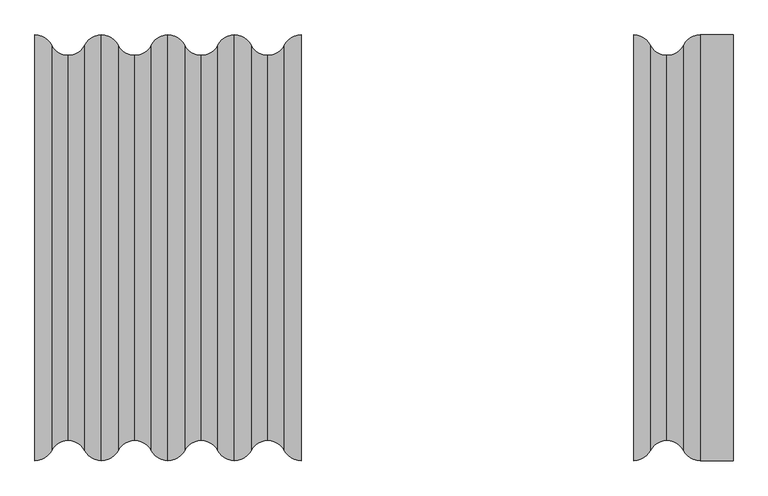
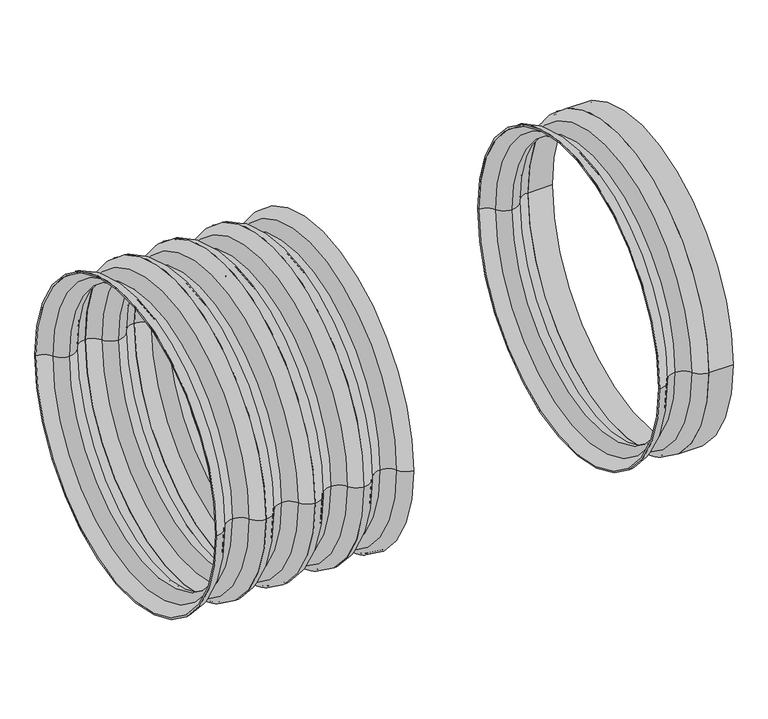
"""IFC4 building model written with IfcOpenShell, lengths in millimetres: pipe fitting geometry, Z_PIF_UN_Q-Bic_Plus_Shaft_Pipe_Wavin_(nested) : PP, RAL8012, ø600mm."""

from ifc_helpers import new_model, si_unit, point, frame, origin, place, context, project, spatial, polyline, circle_curve, ellipse_curve, trimmed, source, transform, mapped, element, save
from ifc_brep_helpers import plane_surface, cylinder_surface, revolved_surface, advanced_brep


def pipe_fitting_82165052(model_context):
    return source(origin(), model_context, "Body", "AdvancedBrep", [
        advanced_brep(
        [(315.0, -336.4, 0.0), (315.0, 336.4, 0.0), (341.25, 320.3, 0.0), (341.25, -320.3, 0.0), (315.0, -332.7, 0.0), (315.0, 332.7, 0.0), (341.25, -316.6, 0.0), (341.25, 316.6, 0.0), (367.5, -300.5, 0.0), (367.5, 300.5, 0.0), (393.75, -316.6, 0.0), (393.75, 316.6, 0.0), (420.0, -332.7, 0.0), (420.0, 332.7, 0.0), (420.0, -336.4, 0.0), (420.0, 336.4, 0.0), (393.75, -320.3, 0.0), (393.75, 320.3, 0.0), (367.5, -304.2, 0.0), (367.5, 304.2, 0.0)],
        [
            (0, 1, circle_curve(frame((315.0, 0.0, 0.0), z_axis=(1.0, 0.0, 0.0), x_axis=(0.0, 1.0, 0.0)), 336.4)),
            (1, 2, circle_curve(frame((315.0, 306.9505435, 0.0), z_axis=(0.0, 0.0, -1.0), x_axis=(1.0, 0.0, 0.0)), 29.4494565)),
            (2, 3, circle_curve(frame((341.25, 0.0, 0.0), z_axis=(-1.0, 0.0, 0.0), x_axis=(0.0, 1.0, 0.0)), 320.3)),
            (3, 0, circle_curve(frame((315.0, -306.9505435, 0.0), z_axis=(0.0, 0.0, -1.0), x_axis=(1.0, 0.0, 0.0)), 29.4494565)),
            (1, 0, circle_curve(frame((315.0, 0.0, 0.0), z_axis=(1.0, 0.0, 0.0), x_axis=(0.0, 1.0, 0.0)), 336.4)),
            (3, 2, circle_curve(frame((341.25, 0.0, 0.0), z_axis=(-1.0, 0.0, 0.0), x_axis=(0.0, 1.0, 0.0)), 320.3)),
            (4, 5, circle_curve(frame((315.0, 0.0, 0.0), z_axis=(1.0, 0.0, 0.0), x_axis=(0.0, 1.0, 0.0)), 332.7)),
            (5, 1),
            (0, 4),
            (5, 4, circle_curve(frame((315.0, 0.0, 0.0), z_axis=(1.0, 0.0, 0.0), x_axis=(0.0, 1.0, 0.0)), 332.7)),
            (6, 7, circle_curve(frame((341.25, 0.0, 0.0), z_axis=(1.0, 0.0, 0.0), x_axis=(0.0, 1.0, 0.0)), 316.6)),
            (7, 5, circle_curve(frame((315.0, 303.2505435, 0.0), z_axis=(0.0, 0.0, 1.0), x_axis=(1.0, 0.0, 0.0)), 29.4494565)),
            (4, 6, circle_curve(frame((315.0, -303.2505435, 0.0), z_axis=(0.0, 0.0, 1.0), x_axis=(1.0, 0.0, 0.0)), 29.4494565)),
            (7, 6, circle_curve(frame((341.25, 0.0, 0.0), z_axis=(1.0, 0.0, 0.0), x_axis=(0.0, 1.0, 0.0)), 316.6)),
            (8, 9, circle_curve(frame((367.5, 0.0, 0.0), z_axis=(1.0, 0.0, 0.0), x_axis=(0.0, 1.0, 0.0)), 300.5)),
            (9, 7, circle_curve(frame((367.5, 329.9494565, 0.0), z_axis=(0.0, 0.0, -1.0), x_axis=(1.0, 0.0, 0.0)), 29.4494565)),
            (6, 8, circle_curve(frame((367.5, -329.9494565, 0.0), z_axis=(0.0, 0.0, -1.0), x_axis=(1.0, 0.0, 0.0)), 29.4494565)),
            (9, 8, circle_curve(frame((367.5, 0.0, 0.0), z_axis=(1.0, 0.0, 0.0), x_axis=(0.0, 1.0, 0.0)), 300.5)),
            (10, 11, circle_curve(frame((393.75, 0.0, 0.0), z_axis=(1.0, 0.0, 0.0), x_axis=(0.0, 1.0, 0.0)), 316.6)),
            (11, 9, circle_curve(frame((367.5, 329.9494565, 0.0), z_axis=(0.0, 0.0, -1.0), x_axis=(1.0, 0.0, 0.0)), 29.4494565)),
            (8, 10, circle_curve(frame((367.5, -329.9494565, 0.0), z_axis=(0.0, 0.0, -1.0), x_axis=(1.0, 0.0, 0.0)), 29.4494565)),
            (11, 10, circle_curve(frame((393.75, 0.0, 0.0), z_axis=(1.0, 0.0, 0.0), x_axis=(0.0, 1.0, 0.0)), 316.6)),
            (12, 13, circle_curve(frame((420.0, 0.0, 0.0), z_axis=(1.0, 0.0, 0.0), x_axis=(0.0, 1.0, 0.0)), 332.7)),
            (13, 11, circle_curve(frame((420.0, 303.2505435, 0.0), z_axis=(0.0, 0.0, 1.0), x_axis=(1.0, 0.0, 0.0)), 29.4494565)),
            (10, 12, circle_curve(frame((420.0, -303.2505435, 0.0), z_axis=(0.0, 0.0, 1.0), x_axis=(1.0, 0.0, 0.0)), 29.4494565)),
            (13, 12, circle_curve(frame((420.0, 0.0, 0.0), z_axis=(1.0, 0.0, 0.0), x_axis=(0.0, 1.0, 0.0)), 332.7)),
            (14, 15, circle_curve(frame((420.0, 0.0, 0.0), z_axis=(1.0, 0.0, 0.0), x_axis=(0.0, 1.0, 0.0)), 336.4)),
            (15, 13),
            (12, 14),
            (15, 14, circle_curve(frame((420.0, 0.0, 0.0), z_axis=(1.0, 0.0, 0.0), x_axis=(0.0, 1.0, 0.0)), 336.4)),
            (16, 17, circle_curve(frame((393.75, 0.0, 0.0), z_axis=(1.0, 0.0, 0.0), x_axis=(0.0, 1.0, 0.0)), 320.3)),
            (17, 15, circle_curve(frame((420.0, 306.9505435, 0.0), z_axis=(0.0, 0.0, -1.0), x_axis=(1.0, 0.0, 0.0)), 29.4494565)),
            (14, 16, circle_curve(frame((420.0, -306.9505435, 0.0), z_axis=(0.0, 0.0, -1.0), x_axis=(1.0, 0.0, 0.0)), 29.4494565)),
            (17, 16, circle_curve(frame((393.75, 0.0, 0.0), z_axis=(1.0, 0.0, 0.0), x_axis=(0.0, 1.0, 0.0)), 320.3)),
            (18, 19, circle_curve(frame((367.5, 0.0, 0.0), z_axis=(1.0, 0.0, 0.0), x_axis=(0.0, 1.0, 0.0)), 304.2)),
            (19, 17, circle_curve(frame((367.5, 333.6494565, 0.0), z_axis=(0.0, 0.0, 1.0), x_axis=(1.0, 0.0, 0.0)), 29.4494565)),
            (16, 18, circle_curve(frame((367.5, -333.6494565, 0.0), z_axis=(0.0, 0.0, 1.0), x_axis=(1.0, 0.0, 0.0)), 29.4494565)),
            (19, 18, circle_curve(frame((367.5, 0.0, 0.0), z_axis=(1.0, 0.0, 0.0), x_axis=(0.0, 1.0, 0.0)), 304.2)),
            (2, 19, circle_curve(frame((367.5, 333.6494565, 0.0), z_axis=(0.0, 0.0, 1.0), x_axis=(1.0, 0.0, 0.0)), 29.4494565)),
            (18, 3, circle_curve(frame((367.5, -333.6494565, 0.0), z_axis=(0.0, 0.0, 1.0), x_axis=(1.0, 0.0, 0.0)), 29.4494565)),
        ],
        [
            revolved_surface(trimmed(ellipse_curve(frame((315.0, 306.9505435, 0.0), z_axis=(0.0, 0.0, 1.0), x_axis=(1.0, 0.0, 0.0)), 29.4494565, 29.4494565), [point((341.25, 320.3, 0.0))], [point((315.0, 336.4, 0.0))], True, "CARTESIAN"), (265.0, 0.0, 0.0), (-1.0, 0.0, 0.0)),
            plane_surface(frame((315.0, 0.0, 0.0), z_axis=(-1.0, 0.0, 0.0), x_axis=(0.0, 1.0, 0.0))),
            revolved_surface(trimmed(ellipse_curve(frame((315.0, 303.2505435, 0.0), z_axis=(0.0, 0.0, -1.0), x_axis=(1.0, 0.0, 0.0)), 29.4494565, 29.4494565), [point((315.0, 332.7, 0.0))], [point((341.25, 316.6, 0.0))], True, "CARTESIAN"), (265.0, 0.0, 0.0), (-1.0, 0.0, 0.0)),
            revolved_surface(trimmed(ellipse_curve(frame((367.5, 329.9494565, 0.0), z_axis=(0.0, 0.0, 1.0), x_axis=(1.0, 0.0, 0.0)), 29.4494565, 29.4494565), [point((341.25, 316.6, 0.0))], [point((367.5, 300.5, 0.0))], True, "CARTESIAN"), (265.0, 0.0, 0.0), (-1.0, 0.0, 0.0)),
            revolved_surface(trimmed(ellipse_curve(frame((367.5, 329.9494565, 0.0), z_axis=(0.0, 0.0, 1.0), x_axis=(1.0, 0.0, 0.0)), 29.4494565, 29.4494565), [point((367.5, 300.5, 0.0))], [point((393.75, 316.6, 0.0))], True, "CARTESIAN"), (265.0, 0.0, 0.0), (-1.0, 0.0, 0.0)),
            revolved_surface(trimmed(ellipse_curve(frame((420.0, 303.2505435, 0.0), z_axis=(0.0, 0.0, -1.0), x_axis=(1.0, 0.0, 0.0)), 29.4494565, 29.4494565), [point((393.75, 316.6, 0.0))], [point((420.0, 332.7, 0.0))], True, "CARTESIAN"), (265.0, 0.0, 0.0), (-1.0, 0.0, 0.0)),
            plane_surface(frame((420.0, 0.0, 0.0), z_axis=(1.0, 0.0, 0.0), x_axis=(0.0, 1.0, 0.0))),
            revolved_surface(trimmed(ellipse_curve(frame((420.0, 306.9505435, 0.0), z_axis=(0.0, 0.0, 1.0), x_axis=(1.0, 0.0, 0.0)), 29.4494565, 29.4494565), [point((420.0, 336.4, 0.0))], [point((393.75, 320.3, 0.0))], True, "CARTESIAN"), (265.0, 0.0, 0.0), (-1.0, 0.0, 0.0)),
            revolved_surface(trimmed(ellipse_curve(frame((367.5, 333.6494565, 0.0), z_axis=(0.0, 0.0, -1.0), x_axis=(1.0, 0.0, 0.0)), 29.4494565, 29.4494565), [point((393.75, 320.3, 0.0))], [point((367.5, 304.2, 0.0))], True, "CARTESIAN"), (265.0, 0.0, 0.0), (-1.0, 0.0, 0.0)),
            revolved_surface(trimmed(ellipse_curve(frame((367.5, 333.6494565, 0.0), z_axis=(0.0, 0.0, -1.0), x_axis=(1.0, 0.0, 0.0)), 29.4494565, 29.4494565), [point((367.5, 304.2, 0.0))], [point((341.25, 320.3, 0.0))], True, "CARTESIAN"), (265.0, 0.0, 0.0), (-1.0, 0.0, 0.0)),
        ],
        [
            (0, [[1, 2, 3, 4]]),
            (0, [[5, -4, 6, -2]]),
            (1, [[7, 8, -1, 9]]),
            (1, [[10, -9, -5, -8]]),
            (2, [[11, 12, -7, 13]]),
            (2, [[14, -13, -10, -12]]),
            (3, [[15, 16, -11, 17]]),
            (3, [[18, -17, -14, -16]]),
            (4, [[19, 20, -15, 21]]),
            (4, [[22, -21, -18, -20]]),
            (5, [[23, 24, -19, 25]]),
            (5, [[26, -25, -22, -24]]),
            (6, [[27, 28, -23, 29]]),
            (6, [[30, -29, -26, -28]]),
            (7, [[31, 32, -27, 33]]),
            (7, [[34, -33, -30, -32]]),
            (8, [[35, 36, -31, 37]]),
            (8, [[38, -37, -34, -36]]),
            (9, [[-3, 39, -35, 40]]),
            (9, [[-6, -40, -38, -39]]),
        ],
    ),
        advanced_brep(
        [(210.0, -336.4, 0.0), (210.0, 336.4, 0.0), (236.25, 320.3, 0.0), (236.25, -320.3, 0.0), (210.0, -332.7, 0.0), (210.0, 332.7, 0.0), (236.25, -316.6, 0.0), (236.25, 316.6, 0.0), (262.5, -300.5, 0.0), (262.5, 300.5, 0.0), (288.75, -316.6, 0.0), (288.75, 316.6, 0.0), (315.0, -332.7, 0.0), (315.0, 332.7, 0.0), (315.0, -336.4, 0.0), (315.0, 336.4, 0.0), (288.75, -320.3, 0.0), (288.75, 320.3, 0.0), (262.5, -304.2, 0.0), (262.5, 304.2, 0.0)],
        [
            (0, 1, circle_curve(frame((210.0, 0.0, 0.0), z_axis=(1.0, 0.0, 0.0), x_axis=(0.0, 1.0, 0.0)), 336.4)),
            (1, 2, circle_curve(frame((210.0, 306.9505435, 0.0), z_axis=(0.0, 0.0, -1.0), x_axis=(1.0, 0.0, 0.0)), 29.4494565)),
            (2, 3, circle_curve(frame((236.25, 0.0, 0.0), z_axis=(-1.0, 0.0, 0.0), x_axis=(0.0, 1.0, 0.0)), 320.3)),
            (3, 0, circle_curve(frame((210.0, -306.9505435, 0.0), z_axis=(0.0, 0.0, -1.0), x_axis=(1.0, 0.0, 0.0)), 29.4494565)),
            (1, 0, circle_curve(frame((210.0, 0.0, 0.0), z_axis=(1.0, 0.0, 0.0), x_axis=(0.0, 1.0, 0.0)), 336.4)),
            (3, 2, circle_curve(frame((236.25, 0.0, 0.0), z_axis=(-1.0, 0.0, 0.0), x_axis=(0.0, 1.0, 0.0)), 320.3)),
            (4, 5, circle_curve(frame((210.0, 0.0, 0.0), z_axis=(1.0, 0.0, 0.0), x_axis=(0.0, 1.0, 0.0)), 332.7)),
            (5, 1),
            (0, 4),
            (5, 4, circle_curve(frame((210.0, 0.0, 0.0), z_axis=(1.0, 0.0, 0.0), x_axis=(0.0, 1.0, 0.0)), 332.7)),
            (6, 7, circle_curve(frame((236.25, 0.0, 0.0), z_axis=(1.0, 0.0, 0.0), x_axis=(0.0, 1.0, 0.0)), 316.6)),
            (7, 5, circle_curve(frame((210.0, 303.2505435, 0.0), z_axis=(0.0, 0.0, 1.0), x_axis=(1.0, 0.0, 0.0)), 29.4494565)),
            (4, 6, circle_curve(frame((210.0, -303.2505435, 0.0), z_axis=(0.0, 0.0, 1.0), x_axis=(1.0, 0.0, 0.0)), 29.4494565)),
            (7, 6, circle_curve(frame((236.25, 0.0, 0.0), z_axis=(1.0, 0.0, 0.0), x_axis=(0.0, 1.0, 0.0)), 316.6)),
            (8, 9, circle_curve(frame((262.5, 0.0, 0.0), z_axis=(1.0, 0.0, 0.0), x_axis=(0.0, 1.0, 0.0)), 300.5)),
            (9, 7, circle_curve(frame((262.5, 329.9494565, 0.0), z_axis=(0.0, 0.0, -1.0), x_axis=(1.0, 0.0, 0.0)), 29.4494565)),
            (6, 8, circle_curve(frame((262.5, -329.9494565, 0.0), z_axis=(0.0, 0.0, -1.0), x_axis=(1.0, 0.0, 0.0)), 29.4494565)),
            (9, 8, circle_curve(frame((262.5, 0.0, 0.0), z_axis=(1.0, 0.0, 0.0), x_axis=(0.0, 1.0, 0.0)), 300.5)),
            (10, 11, circle_curve(frame((288.75, 0.0, 0.0), z_axis=(1.0, 0.0, 0.0), x_axis=(0.0, 1.0, 0.0)), 316.6)),
            (11, 9, circle_curve(frame((262.5, 329.9494565, 0.0), z_axis=(0.0, 0.0, -1.0), x_axis=(1.0, 0.0, 0.0)), 29.4494565)),
            (8, 10, circle_curve(frame((262.5, -329.9494565, 0.0), z_axis=(0.0, 0.0, -1.0), x_axis=(1.0, 0.0, 0.0)), 29.4494565)),
            (11, 10, circle_curve(frame((288.75, 0.0, 0.0), z_axis=(1.0, 0.0, 0.0), x_axis=(0.0, 1.0, 0.0)), 316.6)),
            (12, 13, circle_curve(frame((315.0, 0.0, 0.0), z_axis=(1.0, 0.0, 0.0), x_axis=(0.0, 1.0, 0.0)), 332.7)),
            (13, 11, circle_curve(frame((315.0, 303.2505435, 0.0), z_axis=(0.0, 0.0, 1.0), x_axis=(1.0, 0.0, 0.0)), 29.4494565)),
            (10, 12, circle_curve(frame((315.0, -303.2505435, 0.0), z_axis=(0.0, 0.0, 1.0), x_axis=(1.0, 0.0, 0.0)), 29.4494565)),
            (13, 12, circle_curve(frame((315.0, 0.0, 0.0), z_axis=(1.0, 0.0, 0.0), x_axis=(0.0, 1.0, 0.0)), 332.7)),
            (14, 15, circle_curve(frame((315.0, 0.0, 0.0), z_axis=(1.0, 0.0, 0.0), x_axis=(0.0, 1.0, 0.0)), 336.4)),
            (15, 13),
            (12, 14),
            (15, 14, circle_curve(frame((315.0, 0.0, 0.0), z_axis=(1.0, 0.0, 0.0), x_axis=(0.0, 1.0, 0.0)), 336.4)),
            (16, 17, circle_curve(frame((288.75, 0.0, 0.0), z_axis=(1.0, 0.0, 0.0), x_axis=(0.0, 1.0, 0.0)), 320.3)),
            (17, 15, circle_curve(frame((315.0, 306.9505435, 0.0), z_axis=(0.0, 0.0, -1.0), x_axis=(1.0, 0.0, 0.0)), 29.4494565)),
            (14, 16, circle_curve(frame((315.0, -306.9505435, 0.0), z_axis=(0.0, 0.0, -1.0), x_axis=(1.0, 0.0, 0.0)), 29.4494565)),
            (17, 16, circle_curve(frame((288.75, 0.0, 0.0), z_axis=(1.0, 0.0, 0.0), x_axis=(0.0, 1.0, 0.0)), 320.3)),
            (18, 19, circle_curve(frame((262.5, 0.0, 0.0), z_axis=(1.0, 0.0, 0.0), x_axis=(0.0, 1.0, 0.0)), 304.2)),
            (19, 17, circle_curve(frame((262.5, 333.6494565, 0.0), z_axis=(0.0, 0.0, 1.0), x_axis=(1.0, 0.0, 0.0)), 29.4494565)),
            (16, 18, circle_curve(frame((262.5, -333.6494565, 0.0), z_axis=(0.0, 0.0, 1.0), x_axis=(1.0, 0.0, 0.0)), 29.4494565)),
            (19, 18, circle_curve(frame((262.5, 0.0, 0.0), z_axis=(1.0, 0.0, 0.0), x_axis=(0.0, 1.0, 0.0)), 304.2)),
            (2, 19, circle_curve(frame((262.5, 333.6494565, 0.0), z_axis=(0.0, 0.0, 1.0), x_axis=(1.0, 0.0, 0.0)), 29.4494565)),
            (18, 3, circle_curve(frame((262.5, -333.6494565, 0.0), z_axis=(0.0, 0.0, 1.0), x_axis=(1.0, 0.0, 0.0)), 29.4494565)),
        ],
        [
            revolved_surface(trimmed(ellipse_curve(frame((210.0, 306.9505435, 0.0), z_axis=(0.0, 0.0, 1.0), x_axis=(1.0, 0.0, 0.0)), 29.4494565, 29.4494565), [point((236.25, 320.3, 0.0))], [point((210.0, 336.4, 0.0))], True, "CARTESIAN"), (160.0, 0.0, 0.0), (-1.0, 0.0, 0.0)),
            plane_surface(frame((210.0, 0.0, 0.0), z_axis=(-1.0, 0.0, 0.0), x_axis=(0.0, 1.0, 0.0))),
            revolved_surface(trimmed(ellipse_curve(frame((210.0, 303.2505435, 0.0), z_axis=(0.0, 0.0, -1.0), x_axis=(1.0, 0.0, 0.0)), 29.4494565, 29.4494565), [point((210.0, 332.7, 0.0))], [point((236.25, 316.6, 0.0))], True, "CARTESIAN"), (160.0, 0.0, 0.0), (-1.0, 0.0, 0.0)),
            revolved_surface(trimmed(ellipse_curve(frame((262.5, 329.9494565, 0.0), z_axis=(0.0, 0.0, 1.0), x_axis=(1.0, 0.0, 0.0)), 29.4494565, 29.4494565), [point((236.25, 316.6, 0.0))], [point((262.5, 300.5, 0.0))], True, "CARTESIAN"), (160.0, 0.0, 0.0), (-1.0, 0.0, 0.0)),
            revolved_surface(trimmed(ellipse_curve(frame((262.5, 329.9494565, 0.0), z_axis=(0.0, 0.0, 1.0), x_axis=(1.0, 0.0, 0.0)), 29.4494565, 29.4494565), [point((262.5, 300.5, 0.0))], [point((288.75, 316.6, 0.0))], True, "CARTESIAN"), (160.0, 0.0, 0.0), (-1.0, 0.0, 0.0)),
            revolved_surface(trimmed(ellipse_curve(frame((315.0, 303.2505435, 0.0), z_axis=(0.0, 0.0, -1.0), x_axis=(1.0, 0.0, 0.0)), 29.4494565, 29.4494565), [point((288.75, 316.6, 0.0))], [point((315.0, 332.7, 0.0))], True, "CARTESIAN"), (160.0, 0.0, 0.0), (-1.0, 0.0, 0.0)),
            plane_surface(frame((315.0, 0.0, 0.0), z_axis=(1.0, 0.0, 0.0), x_axis=(0.0, 1.0, 0.0))),
            revolved_surface(trimmed(ellipse_curve(frame((315.0, 306.9505435, 0.0), z_axis=(0.0, 0.0, 1.0), x_axis=(1.0, 0.0, 0.0)), 29.4494565, 29.4494565), [point((315.0, 336.4, 0.0))], [point((288.75, 320.3, 0.0))], True, "CARTESIAN"), (160.0, 0.0, 0.0), (-1.0, 0.0, 0.0)),
            revolved_surface(trimmed(ellipse_curve(frame((262.5, 333.6494565, 0.0), z_axis=(0.0, 0.0, -1.0), x_axis=(1.0, 0.0, 0.0)), 29.4494565, 29.4494565), [point((288.75, 320.3, 0.0))], [point((262.5, 304.2, 0.0))], True, "CARTESIAN"), (160.0, 0.0, 0.0), (-1.0, 0.0, 0.0)),
            revolved_surface(trimmed(ellipse_curve(frame((262.5, 333.6494565, 0.0), z_axis=(0.0, 0.0, -1.0), x_axis=(1.0, 0.0, 0.0)), 29.4494565, 29.4494565), [point((262.5, 304.2, 0.0))], [point((236.25, 320.3, 0.0))], True, "CARTESIAN"), (160.0, 0.0, 0.0), (-1.0, 0.0, 0.0)),
        ],
        [
            (0, [[1, 2, 3, 4]]),
            (0, [[5, -4, 6, -2]]),
            (1, [[7, 8, -1, 9]]),
            (1, [[10, -9, -5, -8]]),
            (2, [[11, 12, -7, 13]]),
            (2, [[14, -13, -10, -12]]),
            (3, [[15, 16, -11, 17]]),
            (3, [[18, -17, -14, -16]]),
            (4, [[19, 20, -15, 21]]),
            (4, [[22, -21, -18, -20]]),
            (5, [[23, 24, -19, 25]]),
            (5, [[26, -25, -22, -24]]),
            (6, [[27, 28, -23, 29]]),
            (6, [[30, -29, -26, -28]]),
            (7, [[31, 32, -27, 33]]),
            (7, [[34, -33, -30, -32]]),
            (8, [[35, 36, -31, 37]]),
            (8, [[38, -37, -34, -36]]),
            (9, [[-3, 39, -35, 40]]),
            (9, [[-6, -40, -38, -39]]),
        ],
    ),
        advanced_brep(
        [(105.0, -336.4, 0.0), (105.0, 336.4, 0.0), (131.25, 320.3, 0.0), (131.25, -320.3, 0.0), (105.0, -332.7, 0.0), (105.0, 332.7, 0.0), (131.25, -316.6, 0.0), (131.25, 316.6, 0.0), (157.5, -300.5, 0.0), (157.5, 300.5, 0.0), (183.75, -316.6, 0.0), (183.75, 316.6, 0.0), (210.0, -332.7, 0.0), (210.0, 332.7, 0.0), (210.0, -336.4, 0.0), (210.0, 336.4, 0.0), (183.75, -320.3, 0.0), (183.75, 320.3, 0.0), (157.5, -304.2, 0.0), (157.5, 304.2, 0.0)],
        [
            (0, 1, circle_curve(frame((105.0, 0.0, 0.0), z_axis=(1.0, 0.0, 0.0), x_axis=(0.0, 1.0, 0.0)), 336.4)),
            (1, 2, circle_curve(frame((105.0, 306.9505435, 0.0), z_axis=(0.0, 0.0, -1.0), x_axis=(1.0, 0.0, 0.0)), 29.4494565)),
            (2, 3, circle_curve(frame((131.25, 0.0, 0.0), z_axis=(-1.0, 0.0, 0.0), x_axis=(0.0, 1.0, 0.0)), 320.3)),
            (3, 0, circle_curve(frame((105.0, -306.9505435, 0.0), z_axis=(0.0, 0.0, -1.0), x_axis=(1.0, 0.0, 0.0)), 29.4494565)),
            (1, 0, circle_curve(frame((105.0, 0.0, 0.0), z_axis=(1.0, 0.0, 0.0), x_axis=(0.0, 1.0, 0.0)), 336.4)),
            (3, 2, circle_curve(frame((131.25, 0.0, 0.0), z_axis=(-1.0, 0.0, 0.0), x_axis=(0.0, 1.0, 0.0)), 320.3)),
            (4, 5, circle_curve(frame((105.0, 0.0, 0.0), z_axis=(1.0, 0.0, 0.0), x_axis=(0.0, 1.0, 0.0)), 332.7)),
            (5, 1),
            (0, 4),
            (5, 4, circle_curve(frame((105.0, 0.0, 0.0), z_axis=(1.0, 0.0, 0.0), x_axis=(0.0, 1.0, 0.0)), 332.7)),
            (6, 7, circle_curve(frame((131.25, 0.0, 0.0), z_axis=(1.0, 0.0, 0.0), x_axis=(0.0, 1.0, 0.0)), 316.6)),
            (7, 5, circle_curve(frame((105.0, 303.2505435, 0.0), z_axis=(0.0, 0.0, 1.0), x_axis=(1.0, 0.0, 0.0)), 29.4494565)),
            (4, 6, circle_curve(frame((105.0, -303.2505435, 0.0), z_axis=(0.0, 0.0, 1.0), x_axis=(1.0, 0.0, 0.0)), 29.4494565)),
            (7, 6, circle_curve(frame((131.25, 0.0, 0.0), z_axis=(1.0, 0.0, 0.0), x_axis=(0.0, 1.0, 0.0)), 316.6)),
            (8, 9, circle_curve(frame((157.5, 0.0, 0.0), z_axis=(1.0, 0.0, 0.0), x_axis=(0.0, 1.0, 0.0)), 300.5)),
            (9, 7, circle_curve(frame((157.5, 329.9494565, 0.0), z_axis=(0.0, 0.0, -1.0), x_axis=(1.0, 0.0, 0.0)), 29.4494565)),
            (6, 8, circle_curve(frame((157.5, -329.9494565, 0.0), z_axis=(0.0, 0.0, -1.0), x_axis=(1.0, 0.0, 0.0)), 29.4494565)),
            (9, 8, circle_curve(frame((157.5, 0.0, 0.0), z_axis=(1.0, 0.0, 0.0), x_axis=(0.0, 1.0, 0.0)), 300.5)),
            (10, 11, circle_curve(frame((183.75, 0.0, 0.0), z_axis=(1.0, 0.0, 0.0), x_axis=(0.0, 1.0, 0.0)), 316.6)),
            (11, 9, circle_curve(frame((157.5, 329.9494565, 0.0), z_axis=(0.0, 0.0, -1.0), x_axis=(1.0, 0.0, 0.0)), 29.4494565)),
            (8, 10, circle_curve(frame((157.5, -329.9494565, 0.0), z_axis=(0.0, 0.0, -1.0), x_axis=(1.0, 0.0, 0.0)), 29.4494565)),
            (11, 10, circle_curve(frame((183.75, 0.0, 0.0), z_axis=(1.0, 0.0, 0.0), x_axis=(0.0, 1.0, 0.0)), 316.6)),
            (12, 13, circle_curve(frame((210.0, 0.0, 0.0), z_axis=(1.0, 0.0, 0.0), x_axis=(0.0, 1.0, 0.0)), 332.7)),
            (13, 11, circle_curve(frame((210.0, 303.2505435, 0.0), z_axis=(0.0, 0.0, 1.0), x_axis=(1.0, 0.0, 0.0)), 29.4494565)),
            (10, 12, circle_curve(frame((210.0, -303.2505435, 0.0), z_axis=(0.0, 0.0, 1.0), x_axis=(1.0, 0.0, 0.0)), 29.4494565)),
            (13, 12, circle_curve(frame((210.0, 0.0, 0.0), z_axis=(1.0, 0.0, 0.0), x_axis=(0.0, 1.0, 0.0)), 332.7)),
            (14, 15, circle_curve(frame((210.0, 0.0, 0.0), z_axis=(1.0, 0.0, 0.0), x_axis=(0.0, 1.0, 0.0)), 336.4)),
            (15, 13),
            (12, 14),
            (15, 14, circle_curve(frame((210.0, 0.0, 0.0), z_axis=(1.0, 0.0, 0.0), x_axis=(0.0, 1.0, 0.0)), 336.4)),
            (16, 17, circle_curve(frame((183.75, 0.0, 0.0), z_axis=(1.0, 0.0, 0.0), x_axis=(0.0, 1.0, 0.0)), 320.3)),
            (17, 15, circle_curve(frame((210.0, 306.9505435, 0.0), z_axis=(0.0, 0.0, -1.0), x_axis=(1.0, 0.0, 0.0)), 29.4494565)),
            (14, 16, circle_curve(frame((210.0, -306.9505435, 0.0), z_axis=(0.0, 0.0, -1.0), x_axis=(1.0, 0.0, 0.0)), 29.4494565)),
            (17, 16, circle_curve(frame((183.75, 0.0, 0.0), z_axis=(1.0, 0.0, 0.0), x_axis=(0.0, 1.0, 0.0)), 320.3)),
            (18, 19, circle_curve(frame((157.5, 0.0, 0.0), z_axis=(1.0, 0.0, 0.0), x_axis=(0.0, 1.0, 0.0)), 304.2)),
            (19, 17, circle_curve(frame((157.5, 333.6494565, 0.0), z_axis=(0.0, 0.0, 1.0), x_axis=(1.0, 0.0, 0.0)), 29.4494565)),
            (16, 18, circle_curve(frame((157.5, -333.6494565, 0.0), z_axis=(0.0, 0.0, 1.0), x_axis=(1.0, 0.0, 0.0)), 29.4494565)),
            (19, 18, circle_curve(frame((157.5, 0.0, 0.0), z_axis=(1.0, 0.0, 0.0), x_axis=(0.0, 1.0, 0.0)), 304.2)),
            (2, 19, circle_curve(frame((157.5, 333.6494565, 0.0), z_axis=(0.0, 0.0, 1.0), x_axis=(1.0, 0.0, 0.0)), 29.4494565)),
            (18, 3, circle_curve(frame((157.5, -333.6494565, 0.0), z_axis=(0.0, 0.0, 1.0), x_axis=(1.0, 0.0, 0.0)), 29.4494565)),
        ],
        [
            revolved_surface(trimmed(ellipse_curve(frame((105.0, 306.9505435, 0.0), z_axis=(0.0, 0.0, 1.0), x_axis=(1.0, 0.0, 0.0)), 29.4494565, 29.4494565), [point((131.25, 320.3, 0.0))], [point((105.0, 336.4, 0.0))], True, "CARTESIAN"), (55.0, 0.0, 0.0), (-1.0, 0.0, 0.0)),
            plane_surface(frame((105.0, 0.0, 0.0), z_axis=(-1.0, 0.0, 0.0), x_axis=(0.0, 1.0, 0.0))),
            revolved_surface(trimmed(ellipse_curve(frame((105.0, 303.2505435, 0.0), z_axis=(0.0, 0.0, -1.0), x_axis=(1.0, 0.0, 0.0)), 29.4494565, 29.4494565), [point((105.0, 332.7, 0.0))], [point((131.25, 316.6, 0.0))], True, "CARTESIAN"), (55.0, 0.0, 0.0), (-1.0, 0.0, 0.0)),
            revolved_surface(trimmed(ellipse_curve(frame((157.5, 329.9494565, 0.0), z_axis=(0.0, 0.0, 1.0), x_axis=(1.0, 0.0, 0.0)), 29.4494565, 29.4494565), [point((131.25, 316.6, 0.0))], [point((157.5, 300.5, 0.0))], True, "CARTESIAN"), (55.0, 0.0, 0.0), (-1.0, 0.0, 0.0)),
            revolved_surface(trimmed(ellipse_curve(frame((157.5, 329.9494565, 0.0), z_axis=(0.0, 0.0, 1.0), x_axis=(1.0, 0.0, 0.0)), 29.4494565, 29.4494565), [point((157.5, 300.5, 0.0))], [point((183.75, 316.6, 0.0))], True, "CARTESIAN"), (55.0, 0.0, 0.0), (-1.0, 0.0, 0.0)),
            revolved_surface(trimmed(ellipse_curve(frame((210.0, 303.2505435, 0.0), z_axis=(0.0, 0.0, -1.0), x_axis=(1.0, 0.0, 0.0)), 29.4494565, 29.4494565), [point((183.75, 316.6, 0.0))], [point((210.0, 332.7, 0.0))], True, "CARTESIAN"), (55.0, 0.0, 0.0), (-1.0, 0.0, 0.0)),
            plane_surface(frame((210.0, 0.0, 0.0), z_axis=(1.0, 0.0, 0.0), x_axis=(0.0, 1.0, 0.0))),
            revolved_surface(trimmed(ellipse_curve(frame((210.0, 306.9505435, 0.0), z_axis=(0.0, 0.0, 1.0), x_axis=(1.0, 0.0, 0.0)), 29.4494565, 29.4494565), [point((210.0, 336.4, 0.0))], [point((183.75, 320.3, 0.0))], True, "CARTESIAN"), (55.0, 0.0, 0.0), (-1.0, 0.0, 0.0)),
            revolved_surface(trimmed(ellipse_curve(frame((157.5, 333.6494565, 0.0), z_axis=(0.0, 0.0, -1.0), x_axis=(1.0, 0.0, 0.0)), 29.4494565, 29.4494565), [point((183.75, 320.3, 0.0))], [point((157.5, 304.2, 0.0))], True, "CARTESIAN"), (55.0, 0.0, 0.0), (-1.0, 0.0, 0.0)),
            revolved_surface(trimmed(ellipse_curve(frame((157.5, 333.6494565, 0.0), z_axis=(0.0, 0.0, -1.0), x_axis=(1.0, 0.0, 0.0)), 29.4494565, 29.4494565), [point((157.5, 304.2, 0.0))], [point((131.25, 320.3, 0.0))], True, "CARTESIAN"), (55.0, 0.0, 0.0), (-1.0, 0.0, 0.0)),
        ],
        [
            (0, [[1, 2, 3, 4]]),
            (0, [[5, -4, 6, -2]]),
            (1, [[7, 8, -1, 9]]),
            (1, [[10, -9, -5, -8]]),
            (2, [[11, 12, -7, 13]]),
            (2, [[14, -13, -10, -12]]),
            (3, [[15, 16, -11, 17]]),
            (3, [[18, -17, -14, -16]]),
            (4, [[19, 20, -15, 21]]),
            (4, [[22, -21, -18, -20]]),
            (5, [[23, 24, -19, 25]]),
            (5, [[26, -25, -22, -24]]),
            (6, [[27, 28, -23, 29]]),
            (6, [[30, -29, -26, -28]]),
            (7, [[31, 32, -27, 33]]),
            (7, [[34, -33, -30, -32]]),
            (8, [[35, 36, -31, 37]]),
            (8, [[38, -37, -34, -36]]),
            (9, [[-3, 39, -35, 40]]),
            (9, [[-6, -40, -38, -39]]),
        ],
    ),
        advanced_brep(
        [(945.0, -336.4, 0.0), (945.0, 336.4, 0.0), (971.25, 320.3, 0.0), (971.25, -320.3, 0.0), (945.0, -332.7, 0.0), (945.0, 332.7, 0.0), (971.25, -316.6, 0.0), (971.25, 316.6, 0.0), (997.5, -300.5, 0.0), (997.5, 300.5, 0.0), (1023.75, -316.6, 0.0), (1023.75, 316.6, 0.0), (1050.0, -332.7, 0.0), (1050.0, 332.7, 0.0), (1050.0, -336.4, 0.0), (1050.0, 336.4, 0.0), (1023.75, -320.3, 0.0), (1023.75, 320.3, 0.0), (997.5, -304.2, 0.0), (997.5, 304.2, 0.0)],
        [
            (0, 1, circle_curve(frame((945.0, 0.0, 0.0), z_axis=(1.0, 0.0, 0.0), x_axis=(0.0, 1.0, 0.0)), 336.4)),
            (1, 2, circle_curve(frame((945.0, 306.9505435, 0.0), z_axis=(0.0, 0.0, -1.0), x_axis=(1.0, 0.0, 0.0)), 29.4494565)),
            (2, 3, circle_curve(frame((971.25, 0.0, 0.0), z_axis=(-1.0, 0.0, 0.0), x_axis=(0.0, 1.0, 0.0)), 320.3)),
            (3, 0, circle_curve(frame((945.0, -306.9505435, 0.0), z_axis=(0.0, 0.0, -1.0), x_axis=(1.0, 0.0, 0.0)), 29.4494565)),
            (1, 0, circle_curve(frame((945.0, 0.0, 0.0), z_axis=(1.0, 0.0, 0.0), x_axis=(0.0, 1.0, 0.0)), 336.4)),
            (3, 2, circle_curve(frame((971.25, 0.0, 0.0), z_axis=(-1.0, 0.0, 0.0), x_axis=(0.0, 1.0, 0.0)), 320.3)),
            (4, 5, circle_curve(frame((945.0, 0.0, 0.0), z_axis=(1.0, 0.0, 0.0), x_axis=(0.0, 1.0, 0.0)), 332.7)),
            (5, 1),
            (0, 4),
            (5, 4, circle_curve(frame((945.0, 0.0, 0.0), z_axis=(1.0, 0.0, 0.0), x_axis=(0.0, 1.0, 0.0)), 332.7)),
            (6, 7, circle_curve(frame((971.25, 0.0, 0.0), z_axis=(1.0, 0.0, 0.0), x_axis=(0.0, 1.0, 0.0)), 316.6)),
            (7, 5, circle_curve(frame((945.0, 303.2505435, 0.0), z_axis=(0.0, 0.0, 1.0), x_axis=(1.0, 0.0, 0.0)), 29.4494565)),
            (4, 6, circle_curve(frame((945.0, -303.2505435, 0.0), z_axis=(0.0, 0.0, 1.0), x_axis=(1.0, 0.0, 0.0)), 29.4494565)),
            (7, 6, circle_curve(frame((971.25, 0.0, 0.0), z_axis=(1.0, 0.0, 0.0), x_axis=(0.0, 1.0, 0.0)), 316.6)),
            (8, 9, circle_curve(frame((997.5, 0.0, 0.0), z_axis=(1.0, 0.0, 0.0), x_axis=(0.0, 1.0, 0.0)), 300.5)),
            (9, 7, circle_curve(frame((997.5, 329.9494565, 0.0), z_axis=(0.0, 0.0, -1.0), x_axis=(1.0, 0.0, 0.0)), 29.4494565)),
            (6, 8, circle_curve(frame((997.5, -329.9494565, 0.0), z_axis=(0.0, 0.0, -1.0), x_axis=(1.0, 0.0, 0.0)), 29.4494565)),
            (9, 8, circle_curve(frame((997.5, 0.0, 0.0), z_axis=(1.0, 0.0, 0.0), x_axis=(0.0, 1.0, 0.0)), 300.5)),
            (10, 11, circle_curve(frame((1023.75, 0.0, 0.0), z_axis=(1.0, 0.0, 0.0), x_axis=(0.0, 1.0, 0.0)), 316.6)),
            (11, 9, circle_curve(frame((997.5, 329.9494565, 0.0), z_axis=(0.0, 0.0, -1.0), x_axis=(1.0, 0.0, 0.0)), 29.4494565)),
            (8, 10, circle_curve(frame((997.5, -329.9494565, 0.0), z_axis=(0.0, 0.0, -1.0), x_axis=(1.0, 0.0, 0.0)), 29.4494565)),
            (11, 10, circle_curve(frame((1023.75, 0.0, 0.0), z_axis=(1.0, 0.0, 0.0), x_axis=(0.0, 1.0, 0.0)), 316.6)),
            (12, 13, circle_curve(frame((1050.0, 0.0, 0.0), z_axis=(1.0, 0.0, 0.0), x_axis=(0.0, 1.0, 0.0)), 332.7)),
            (13, 11, circle_curve(frame((1050.0, 303.2505435, 0.0), z_axis=(0.0, 0.0, 1.0), x_axis=(1.0, 0.0, 0.0)), 29.4494565)),
            (10, 12, circle_curve(frame((1050.0, -303.2505435, 0.0), z_axis=(0.0, 0.0, 1.0), x_axis=(1.0, 0.0, 0.0)), 29.4494565)),
            (13, 12, circle_curve(frame((1050.0, 0.0, 0.0), z_axis=(1.0, 0.0, 0.0), x_axis=(0.0, 1.0, 0.0)), 332.7)),
            (14, 15, circle_curve(frame((1050.0, 0.0, 0.0), z_axis=(1.0, 0.0, 0.0), x_axis=(0.0, 1.0, 0.0)), 336.4)),
            (15, 13),
            (12, 14),
            (15, 14, circle_curve(frame((1050.0, 0.0, 0.0), z_axis=(1.0, 0.0, 0.0), x_axis=(0.0, 1.0, 0.0)), 336.4)),
            (16, 17, circle_curve(frame((1023.75, 0.0, 0.0), z_axis=(1.0, 0.0, 0.0), x_axis=(0.0, 1.0, 0.0)), 320.3)),
            (17, 15, circle_curve(frame((1050.0, 306.9505435, 0.0), z_axis=(0.0, 0.0, -1.0), x_axis=(1.0, 0.0, 0.0)), 29.4494565)),
            (14, 16, circle_curve(frame((1050.0, -306.9505435, 0.0), z_axis=(0.0, 0.0, -1.0), x_axis=(1.0, 0.0, 0.0)), 29.4494565)),
            (17, 16, circle_curve(frame((1023.75, 0.0, 0.0), z_axis=(1.0, 0.0, 0.0), x_axis=(0.0, 1.0, 0.0)), 320.3)),
            (18, 19, circle_curve(frame((997.5, 0.0, 0.0), z_axis=(1.0, 0.0, 0.0), x_axis=(0.0, 1.0, 0.0)), 304.2)),
            (19, 17, circle_curve(frame((997.5, 333.6494565, 0.0), z_axis=(0.0, 0.0, 1.0), x_axis=(1.0, 0.0, 0.0)), 29.4494565)),
            (16, 18, circle_curve(frame((997.5, -333.6494565, 0.0), z_axis=(0.0, 0.0, 1.0), x_axis=(1.0, 0.0, 0.0)), 29.4494565)),
            (19, 18, circle_curve(frame((997.5, 0.0, 0.0), z_axis=(1.0, 0.0, 0.0), x_axis=(0.0, 1.0, 0.0)), 304.2)),
            (2, 19, circle_curve(frame((997.5, 333.6494565, 0.0), z_axis=(0.0, 0.0, 1.0), x_axis=(1.0, 0.0, 0.0)), 29.4494565)),
            (18, 3, circle_curve(frame((997.5, -333.6494565, 0.0), z_axis=(0.0, 0.0, 1.0), x_axis=(1.0, 0.0, 0.0)), 29.4494565)),
        ],
        [
            revolved_surface(trimmed(ellipse_curve(frame((945.0, 306.9505435, 0.0), z_axis=(0.0, 0.0, 1.0), x_axis=(1.0, 0.0, 0.0)), 29.4494565, 29.4494565), [point((971.25, 320.3, 0.0))], [point((945.0, 336.4, 0.0))], True, "CARTESIAN"), (895.0, 0.0, 0.0), (-1.0, 0.0, 0.0)),
            plane_surface(frame((945.0, 0.0, 0.0), z_axis=(-1.0, 0.0, 0.0), x_axis=(0.0, 1.0, 0.0))),
            revolved_surface(trimmed(ellipse_curve(frame((945.0, 303.2505435, 0.0), z_axis=(0.0, 0.0, -1.0), x_axis=(1.0, 0.0, 0.0)), 29.4494565, 29.4494565), [point((945.0, 332.7, 0.0))], [point((971.25, 316.6, 0.0))], True, "CARTESIAN"), (895.0, 0.0, 0.0), (-1.0, 0.0, 0.0)),
            revolved_surface(trimmed(ellipse_curve(frame((997.5, 329.9494565, 0.0), z_axis=(0.0, 0.0, 1.0), x_axis=(1.0, 0.0, 0.0)), 29.4494565, 29.4494565), [point((971.25, 316.6, 0.0))], [point((997.5, 300.5, 0.0))], True, "CARTESIAN"), (895.0, 0.0, 0.0), (-1.0, 0.0, 0.0)),
            revolved_surface(trimmed(ellipse_curve(frame((997.5, 329.9494565, 0.0), z_axis=(0.0, 0.0, 1.0), x_axis=(1.0, 0.0, 0.0)), 29.4494565, 29.4494565), [point((997.5, 300.5, 0.0))], [point((1023.75, 316.6, 0.0))], True, "CARTESIAN"), (895.0, 0.0, 0.0), (-1.0, 0.0, 0.0)),
            revolved_surface(trimmed(ellipse_curve(frame((1050.0, 303.2505435, 0.0), z_axis=(0.0, 0.0, -1.0), x_axis=(1.0, 0.0, 0.0)), 29.4494565, 29.4494565), [point((1023.75, 316.6, 0.0))], [point((1050.0, 332.7, 0.0))], True, "CARTESIAN"), (895.0, 0.0, 0.0), (-1.0, 0.0, 0.0)),
            plane_surface(frame((1050.0, 0.0, 0.0), z_axis=(1.0, 0.0, 0.0), x_axis=(0.0, 1.0, 0.0))),
            revolved_surface(trimmed(ellipse_curve(frame((1050.0, 306.9505435, 0.0), z_axis=(0.0, 0.0, 1.0), x_axis=(1.0, 0.0, 0.0)), 29.4494565, 29.4494565), [point((1050.0, 336.4, 0.0))], [point((1023.75, 320.3, 0.0))], True, "CARTESIAN"), (895.0, 0.0, 0.0), (-1.0, 0.0, 0.0)),
            revolved_surface(trimmed(ellipse_curve(frame((997.5, 333.6494565, 0.0), z_axis=(0.0, 0.0, -1.0), x_axis=(1.0, 0.0, 0.0)), 29.4494565, 29.4494565), [point((1023.75, 320.3, 0.0))], [point((997.5, 304.2, 0.0))], True, "CARTESIAN"), (895.0, 0.0, 0.0), (-1.0, 0.0, 0.0)),
            revolved_surface(trimmed(ellipse_curve(frame((997.5, 333.6494565, 0.0), z_axis=(0.0, 0.0, -1.0), x_axis=(1.0, 0.0, 0.0)), 29.4494565, 29.4494565), [point((997.5, 304.2, 0.0))], [point((971.25, 320.3, 0.0))], True, "CARTESIAN"), (895.0, 0.0, 0.0), (-1.0, 0.0, 0.0)),
        ],
        [
            (0, [[1, 2, 3, 4]]),
            (0, [[5, -4, 6, -2]]),
            (1, [[7, 8, -1, 9]]),
            (1, [[10, -9, -5, -8]]),
            (2, [[11, 12, -7, 13]]),
            (2, [[14, -13, -10, -12]]),
            (3, [[15, 16, -11, 17]]),
            (3, [[18, -17, -14, -16]]),
            (4, [[19, 20, -15, 21]]),
            (4, [[22, -21, -18, -20]]),
            (5, [[23, 24, -19, 25]]),
            (5, [[26, -25, -22, -24]]),
            (6, [[27, 28, -23, 29]]),
            (6, [[30, -29, -26, -28]]),
            (7, [[31, 32, -27, 33]]),
            (7, [[34, -33, -30, -32]]),
            (8, [[35, 36, -31, 37]]),
            (8, [[38, -37, -34, -36]]),
            (9, [[-3, 39, -35, 40]]),
            (9, [[-6, -40, -38, -39]]),
        ],
    ),
        advanced_brep(
        [(0.0, -336.4, 0.0), (0.0, 336.4, 0.0), (26.25, 320.3, 0.0), (26.25, -320.3, 0.0), (0.0, -332.7, 0.0), (0.0, 332.7, 0.0), (26.25, -316.6, 0.0), (26.25, 316.6, 0.0), (52.5, -300.5, 0.0), (52.5, 300.5, 0.0), (78.75, -316.6, 0.0), (78.75, 316.6, 0.0), (105.0, -332.7, 0.0), (105.0, 332.7, 0.0), (105.0, -336.4, 0.0), (105.0, 336.4, 0.0), (78.75, -320.3, 0.0), (78.75, 320.3, 0.0), (52.5, -304.2, 0.0), (52.5, 304.2, 0.0)],
        [
            (0, 1, circle_curve(frame((0.0, 0.0, 0.0), z_axis=(1.0, 0.0, 0.0), x_axis=(0.0, 1.0, 0.0)), 336.4)),
            (1, 2, circle_curve(frame((0.0, 306.9505435, 0.0), z_axis=(0.0, 0.0, -1.0), x_axis=(1.0, 0.0, 0.0)), 29.4494565)),
            (2, 3, circle_curve(frame((26.25, 0.0, 0.0), z_axis=(-1.0, 0.0, 0.0), x_axis=(0.0, 1.0, 0.0)), 320.3)),
            (3, 0, circle_curve(frame((0.0, -306.9505435, 0.0), z_axis=(0.0, 0.0, -1.0), x_axis=(1.0, 0.0, 0.0)), 29.4494565)),
            (1, 0, circle_curve(frame((0.0, 0.0, 0.0), z_axis=(1.0, 0.0, 0.0), x_axis=(0.0, 1.0, 0.0)), 336.4)),
            (3, 2, circle_curve(frame((26.25, 0.0, 0.0), z_axis=(-1.0, 0.0, 0.0), x_axis=(0.0, 1.0, 0.0)), 320.3)),
            (4, 5, circle_curve(frame((0.0, 0.0, 0.0), z_axis=(1.0, 0.0, 0.0), x_axis=(0.0, 1.0, 0.0)), 332.7)),
            (5, 1),
            (0, 4),
            (5, 4, circle_curve(frame((0.0, 0.0, 0.0), z_axis=(1.0, 0.0, 0.0), x_axis=(0.0, 1.0, 0.0)), 332.7)),
            (6, 7, circle_curve(frame((26.25, 0.0, 0.0), z_axis=(1.0, 0.0, 0.0), x_axis=(0.0, 1.0, 0.0)), 316.6)),
            (7, 5, circle_curve(frame((0.0, 303.2505435, 0.0), z_axis=(0.0, 0.0, 1.0), x_axis=(1.0, 0.0, 0.0)), 29.4494565)),
            (4, 6, circle_curve(frame((0.0, -303.2505435, 0.0), z_axis=(0.0, 0.0, 1.0), x_axis=(1.0, 0.0, 0.0)), 29.4494565)),
            (7, 6, circle_curve(frame((26.25, 0.0, 0.0), z_axis=(1.0, 0.0, 0.0), x_axis=(0.0, 1.0, 0.0)), 316.6)),
            (8, 9, circle_curve(frame((52.5, 0.0, 0.0), z_axis=(1.0, 0.0, 0.0), x_axis=(0.0, 1.0, 0.0)), 300.5)),
            (9, 7, circle_curve(frame((52.5, 329.9494565, 0.0), z_axis=(0.0, 0.0, -1.0), x_axis=(1.0, 0.0, 0.0)), 29.4494565)),
            (6, 8, circle_curve(frame((52.5, -329.9494565, 0.0), z_axis=(0.0, 0.0, -1.0), x_axis=(1.0, 0.0, 0.0)), 29.4494565)),
            (9, 8, circle_curve(frame((52.5, 0.0, 0.0), z_axis=(1.0, 0.0, 0.0), x_axis=(0.0, 1.0, 0.0)), 300.5)),
            (10, 11, circle_curve(frame((78.75, 0.0, 0.0), z_axis=(1.0, 0.0, 0.0), x_axis=(0.0, 1.0, 0.0)), 316.6)),
            (11, 9, circle_curve(frame((52.5, 329.9494565, 0.0), z_axis=(0.0, 0.0, -1.0), x_axis=(1.0, 0.0, 0.0)), 29.4494565)),
            (8, 10, circle_curve(frame((52.5, -329.9494565, 0.0), z_axis=(0.0, 0.0, -1.0), x_axis=(1.0, 0.0, 0.0)), 29.4494565)),
            (11, 10, circle_curve(frame((78.75, 0.0, 0.0), z_axis=(1.0, 0.0, 0.0), x_axis=(0.0, 1.0, 0.0)), 316.6)),
            (12, 13, circle_curve(frame((105.0, 0.0, 0.0), z_axis=(1.0, 0.0, 0.0), x_axis=(0.0, 1.0, 0.0)), 332.7)),
            (13, 11, circle_curve(frame((105.0, 303.2505435, 0.0), z_axis=(0.0, 0.0, 1.0), x_axis=(1.0, 0.0, 0.0)), 29.4494565)),
            (10, 12, circle_curve(frame((105.0, -303.2505435, 0.0), z_axis=(0.0, 0.0, 1.0), x_axis=(1.0, 0.0, 0.0)), 29.4494565)),
            (13, 12, circle_curve(frame((105.0, 0.0, 0.0), z_axis=(1.0, 0.0, 0.0), x_axis=(0.0, 1.0, 0.0)), 332.7)),
            (14, 15, circle_curve(frame((105.0, 0.0, 0.0), z_axis=(1.0, 0.0, 0.0), x_axis=(0.0, 1.0, 0.0)), 336.4)),
            (15, 13),
            (12, 14),
            (15, 14, circle_curve(frame((105.0, 0.0, 0.0), z_axis=(1.0, 0.0, 0.0), x_axis=(0.0, 1.0, 0.0)), 336.4)),
            (16, 17, circle_curve(frame((78.75, 0.0, 0.0), z_axis=(1.0, 0.0, 0.0), x_axis=(0.0, 1.0, 0.0)), 320.3)),
            (17, 15, circle_curve(frame((105.0, 306.9505435, 0.0), z_axis=(0.0, 0.0, -1.0), x_axis=(1.0, 0.0, 0.0)), 29.4494565)),
            (14, 16, circle_curve(frame((105.0, -306.9505435, 0.0), z_axis=(0.0, 0.0, -1.0), x_axis=(1.0, 0.0, 0.0)), 29.4494565)),
            (17, 16, circle_curve(frame((78.75, 0.0, 0.0), z_axis=(1.0, 0.0, 0.0), x_axis=(0.0, 1.0, 0.0)), 320.3)),
            (18, 19, circle_curve(frame((52.5, 0.0, 0.0), z_axis=(1.0, 0.0, 0.0), x_axis=(0.0, 1.0, 0.0)), 304.2)),
            (19, 17, circle_curve(frame((52.5, 333.6494565, 0.0), z_axis=(0.0, 0.0, 1.0), x_axis=(1.0, 0.0, 0.0)), 29.4494565)),
            (16, 18, circle_curve(frame((52.5, -333.6494565, 0.0), z_axis=(0.0, 0.0, 1.0), x_axis=(1.0, 0.0, 0.0)), 29.4494565)),
            (19, 18, circle_curve(frame((52.5, 0.0, 0.0), z_axis=(1.0, 0.0, 0.0), x_axis=(0.0, 1.0, 0.0)), 304.2)),
            (2, 19, circle_curve(frame((52.5, 333.6494565, 0.0), z_axis=(0.0, 0.0, 1.0), x_axis=(1.0, 0.0, 0.0)), 29.4494565)),
            (18, 3, circle_curve(frame((52.5, -333.6494565, 0.0), z_axis=(0.0, 0.0, 1.0), x_axis=(1.0, 0.0, 0.0)), 29.4494565)),
        ],
        [
            revolved_surface(trimmed(ellipse_curve(frame((0.0, 306.9505435, 0.0), z_axis=(0.0, 0.0, 1.0), x_axis=(1.0, 0.0, 0.0)), 29.4494565, 29.4494565), [point((26.25, 320.3, 0.0))], [point((0.0, 336.4, 0.0))], True, "CARTESIAN"), (-50.0, 0.0, 0.0), (-1.0, 0.0, 0.0)),
            plane_surface(frame((0.0, 0.0, 0.0), z_axis=(-1.0, 0.0, 0.0), x_axis=(0.0, 1.0, 0.0))),
            revolved_surface(trimmed(ellipse_curve(frame((0.0, 303.2505435, 0.0), z_axis=(0.0, 0.0, -1.0), x_axis=(1.0, 0.0, 0.0)), 29.4494565, 29.4494565), [point((0.0, 332.7, 0.0))], [point((26.25, 316.6, 0.0))], True, "CARTESIAN"), (-50.0, 0.0, 0.0), (-1.0, 0.0, 0.0)),
            revolved_surface(trimmed(ellipse_curve(frame((52.5, 329.9494565, 0.0), z_axis=(0.0, 0.0, 1.0), x_axis=(1.0, 0.0, 0.0)), 29.4494565, 29.4494565), [point((26.25, 316.6, 0.0))], [point((52.5, 300.5, 0.0))], True, "CARTESIAN"), (-50.0, 0.0, 0.0), (-1.0, 0.0, 0.0)),
            revolved_surface(trimmed(ellipse_curve(frame((52.5, 329.9494565, 0.0), z_axis=(0.0, 0.0, 1.0), x_axis=(1.0, 0.0, 0.0)), 29.4494565, 29.4494565), [point((52.5, 300.5, 0.0))], [point((78.75, 316.6, 0.0))], True, "CARTESIAN"), (-50.0, 0.0, 0.0), (-1.0, 0.0, 0.0)),
            revolved_surface(trimmed(ellipse_curve(frame((105.0, 303.2505435, 0.0), z_axis=(0.0, 0.0, -1.0), x_axis=(1.0, 0.0, 0.0)), 29.4494565, 29.4494565), [point((78.75, 316.6, 0.0))], [point((105.0, 332.7, 0.0))], True, "CARTESIAN"), (-50.0, 0.0, 0.0), (-1.0, 0.0, 0.0)),
            plane_surface(frame((105.0, 0.0, 0.0), z_axis=(1.0, 0.0, 0.0), x_axis=(0.0, 1.0, 0.0))),
            revolved_surface(trimmed(ellipse_curve(frame((105.0, 306.9505435, 0.0), z_axis=(0.0, 0.0, 1.0), x_axis=(1.0, 0.0, 0.0)), 29.4494565, 29.4494565), [point((105.0, 336.4, 0.0))], [point((78.75, 320.3, 0.0))], True, "CARTESIAN"), (-50.0, 0.0, 0.0), (-1.0, 0.0, 0.0)),
            revolved_surface(trimmed(ellipse_curve(frame((52.5, 333.6494565, 0.0), z_axis=(0.0, 0.0, -1.0), x_axis=(1.0, 0.0, 0.0)), 29.4494565, 29.4494565), [point((78.75, 320.3, 0.0))], [point((52.5, 304.2, 0.0))], True, "CARTESIAN"), (-50.0, 0.0, 0.0), (-1.0, 0.0, 0.0)),
            revolved_surface(trimmed(ellipse_curve(frame((52.5, 333.6494565, 0.0), z_axis=(0.0, 0.0, -1.0), x_axis=(1.0, 0.0, 0.0)), 29.4494565, 29.4494565), [point((52.5, 304.2, 0.0))], [point((26.25, 320.3, 0.0))], True, "CARTESIAN"), (-50.0, 0.0, 0.0), (-1.0, 0.0, 0.0)),
        ],
        [
            (0, [[1, 2, 3, 4]]),
            (0, [[5, -4, 6, -2]]),
            (1, [[7, 8, -1, 9]]),
            (1, [[10, -9, -5, -8]]),
            (2, [[11, 12, -7, 13]]),
            (2, [[14, -13, -10, -12]]),
            (3, [[15, 16, -11, 17]]),
            (3, [[18, -17, -14, -16]]),
            (4, [[19, 20, -15, 21]]),
            (4, [[22, -21, -18, -20]]),
            (5, [[23, 24, -19, 25]]),
            (5, [[26, -25, -22, -24]]),
            (6, [[27, 28, -23, 29]]),
            (6, [[30, -29, -26, -28]]),
            (7, [[31, 32, -27, 33]]),
            (7, [[34, -33, -30, -32]]),
            (8, [[35, 36, -31, 37]]),
            (8, [[38, -37, -34, -36]]),
            (9, [[-3, 39, -35, 40]]),
            (9, [[-6, -40, -38, -39]]),
        ],
    ),
        advanced_brep(
        [(1050.0, -336.4, 0.0), (1050.0, 336.4, 0.0), (1102.0, 336.4, 0.0), (1102.0, -336.4, 0.0), (1050.0, -332.7, 0.0), (1050.0, 332.7, 0.0), (1102.0, -332.7, 0.0), (1102.0, 332.7, 0.0)],
        [
            (0, 1, circle_curve(frame((1050.0, 0.0, 0.0), z_axis=(1.0, 0.0, 0.0), x_axis=(0.0, 1.0, 0.0)), 336.4)),
            (1, 2),
            (2, 3, circle_curve(frame((1102.0, 0.0, 0.0), z_axis=(-1.0, 0.0, 0.0), x_axis=(0.0, 1.0, 0.0)), 336.4)),
            (3, 0),
            (1, 0, circle_curve(frame((1050.0, 0.0, 0.0), z_axis=(1.0, 0.0, 0.0), x_axis=(0.0, 1.0, 0.0)), 336.4)),
            (3, 2, circle_curve(frame((1102.0, 0.0, 0.0), z_axis=(-1.0, 0.0, 0.0), x_axis=(0.0, 1.0, 0.0)), 336.4)),
            (4, 5, circle_curve(frame((1050.0, 0.0, 0.0), z_axis=(1.0, 0.0, 0.0), x_axis=(0.0, 1.0, 0.0)), 332.7)),
            (5, 1),
            (0, 4),
            (5, 4, circle_curve(frame((1050.0, 0.0, 0.0), z_axis=(1.0, 0.0, 0.0), x_axis=(0.0, 1.0, 0.0)), 332.7)),
            (6, 7, circle_curve(frame((1102.0, 0.0, 0.0), z_axis=(1.0, 0.0, 0.0), x_axis=(0.0, 1.0, 0.0)), 332.7)),
            (7, 5),
            (4, 6),
            (7, 6, circle_curve(frame((1102.0, 0.0, 0.0), z_axis=(1.0, 0.0, 0.0), x_axis=(0.0, 1.0, 0.0)), 332.7)),
            (2, 7),
            (6, 3),
        ],
        [
            cylinder_surface(frame((1050.0, 0.0, 0.0), z_axis=(-1.0, 0.0, 0.0), x_axis=(0.0, 1.0, 0.0)), 336.4),
            plane_surface(frame((1050.0, 0.0, 0.0), z_axis=(-1.0, 0.0, 0.0), x_axis=(0.0, 1.0, 0.0))),
            revolved_surface(polyline([(1050.0, 332.7, 0.0), (1102.0, 332.7, 0.0)]), (1050.0, 0.0, 0.0), (-1.0, 0.0, 0.0)),
            plane_surface(frame((1102.0, 0.0, 0.0), z_axis=(1.0, 0.0, 0.0), x_axis=(0.0, 1.0, 0.0))),
        ],
        [
            (0, [[1, 2, 3, 4]]),
            (0, [[5, -4, 6, -2]]),
            (1, [[7, 8, -1, 9]]),
            (1, [[10, -9, -5, -8]]),
            (2, [[11, 12, -7, 13]]),
            (2, [[14, -13, -10, -12]]),
            (3, [[-3, 15, -11, 16]]),
            (3, [[-6, -16, -14, -15]]),
        ],
    ),
    ])


if __name__ == "__main__":
    model = new_model("IFC4")
    model_context = context("Model", 3, world=origin())
    ifc_project = project(units=[si_unit("LENGTHUNIT", "METRE", prefix="MILLI")], contexts=[model_context])
    site = spatial("IfcSite", under=ifc_project)
    building = spatial("IfcBuilding", under=site)
    placement = place(None, origin())
    pipe_fitting_shape = pipe_fitting_82165052(model_context)
    element("IfcPipeFitting", 1, ObjectType="Z_PIF_UN_Q-Bic_Plus_Shaft_Pipe_Wavin_(nested) : PP, RAL8012, ø600mm", at=placement, inside=building, context=model_context, shape_type="MappedRepresentation", body=[
        mapped(pipe_fitting_shape, transform((0.0, 0.0, 0.0), x_axis=(1.0, 0.0, 0.0), y_axis=(0.0, 1.0, 0.0), z_axis=(0.0, 0.0, 1.0))),
    ])
    save(model, "model.ifc")
